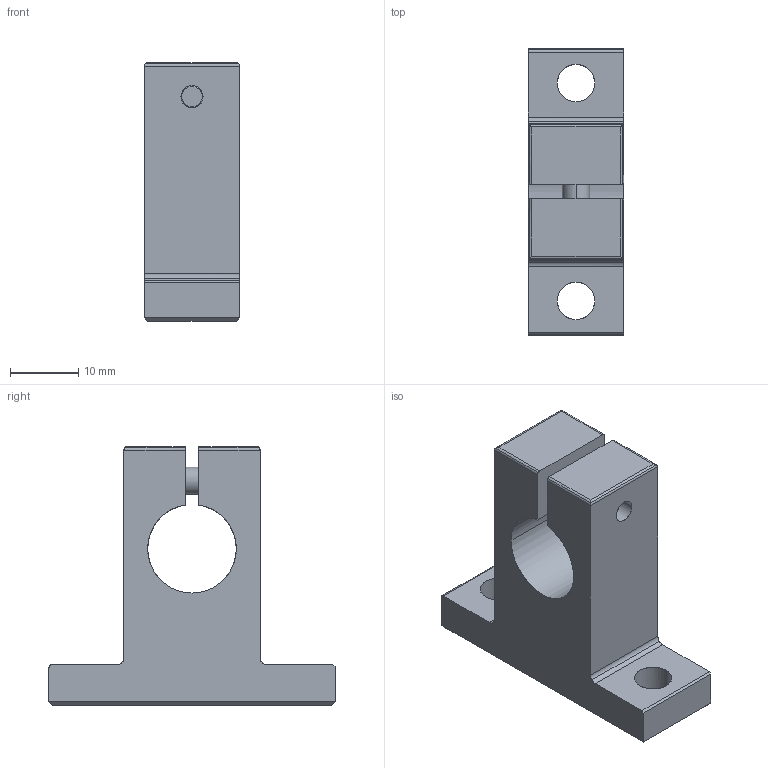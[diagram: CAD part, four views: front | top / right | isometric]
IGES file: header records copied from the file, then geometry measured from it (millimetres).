
Global section: file name: No Iges File Name specified; native system: AutoDesk Inventor R10; preprocessor: AutoDesk Inventor Iges Exporter R10; author: No Author specified; organization: No Organization specified; date: 20101214.152953; units: millimetre
Bounding box: 14 x 42 x 38 mm (x, y, z)
Surface area: 4908 mm2 (no closed solid volume)
Topology: 0 solids, 0 shells, 69 faces, 412 edges, 410 vertices
Faces by surface type: bspline 69
